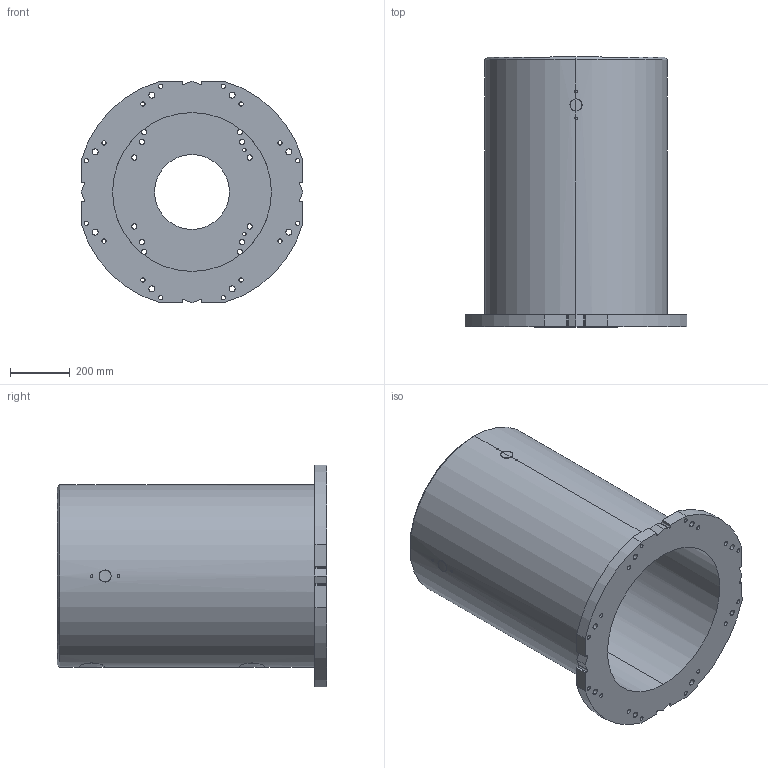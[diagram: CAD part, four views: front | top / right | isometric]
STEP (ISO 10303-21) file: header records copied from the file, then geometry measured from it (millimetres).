
FILE_DESCRIPTION (( 'STEP AP214' ), '1' );
FILE_NAME ('M-900.STEP', '2025-12-09T14:42:10', ( '' ), ( '' ), 'SwSTEP 2.0', 'SolidWorks 2022', '' );
FILE_SCHEMA (( 'AUTOMOTIVE_DESIGN' ));
Length unit declared in the file: millimetre
Products named in the file (1): M-900
Bounding box: 740 x 900 x 740 mm (x, y, z)
Volume: 76921436.8 mm3; surface area: 4081562.1 mm2
Topology: 1 solids, 1 shells, 215 faces, 597 edges, 394 vertices
Faces by surface type: cylinder 157, plane 28, bspline 24, cone 6
Entity records: 12806 total; most frequent: CARTESIAN_POINT 6333, ORIENTED_EDGE 1186, DIRECTION 1037, EDGE_CURVE 593, AXIS2_PLACEMENT_3D 406, VERTEX_POINT 394, EDGE_LOOP 307, LINE 225
